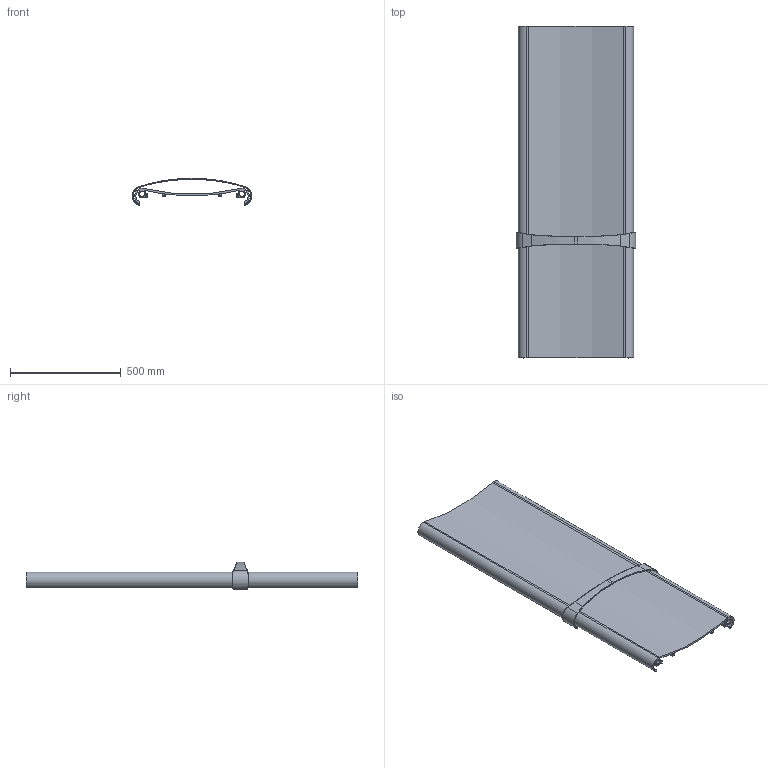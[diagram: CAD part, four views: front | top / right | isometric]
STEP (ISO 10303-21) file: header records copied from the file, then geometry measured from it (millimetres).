
FILE_DESCRIPTION (( 'STEP AP203' ), '1' );
FILE_NAME ('FBEN15520BP.STEP', '2026-03-03T13:39:10', ( '' ), ( '' ), 'SwSTEP 2.0', 'SolidWorks 2025', '' );
FILE_SCHEMA (( 'CONFIG_CONTROL_DESIGN' ));
Length unit declared in the file: millimetre
Products named in the file (3): BARRA BENT; ESTRUSO BENT_1500; FBEN15520BP
Assembly tree (2 placements, depth 2):
  FBEN15520BP
    ESTRUSO BENT_1500
    BARRA BENT
Bounding box: 540 x 1500 x 123 mm (x, y, z)
Volume: 8555913.2 mm3; surface area: 2739747.9 mm2
Topology: 2 solids, 2 shells, 152 faces, 388 edges, 240 vertices
Faces by surface type: bspline 58, cylinder 54, plane 36, torus 4
Entity records: 8567 total; most frequent: CARTESIAN_POINT 4919, ORIENTED_EDGE 776, DIRECTION 622, EDGE_CURVE 388, VERTEX_POINT 240, AXIS2_PLACEMENT_3D 239, EDGE_LOOP 156, ADVANCED_FACE 152
